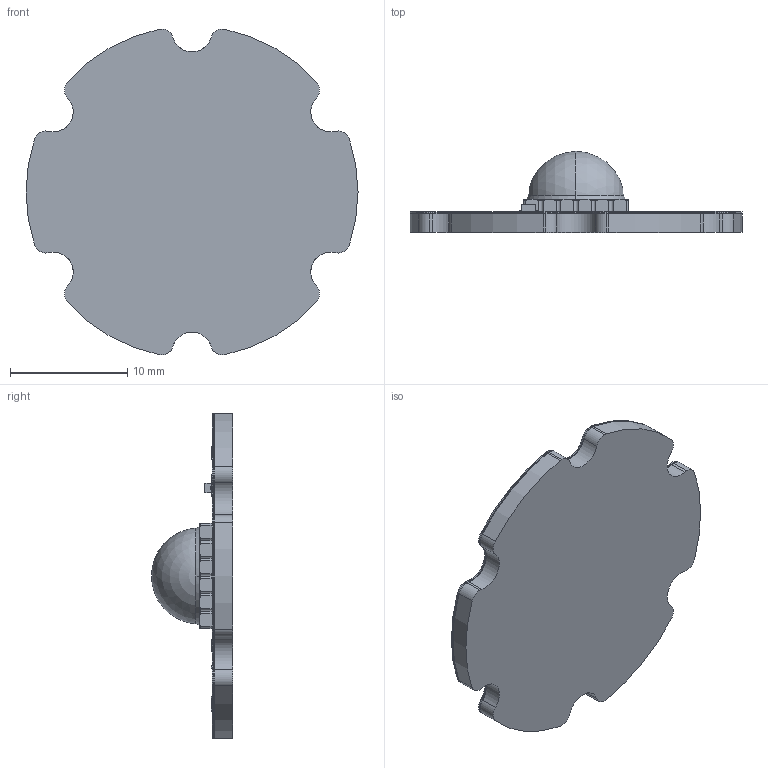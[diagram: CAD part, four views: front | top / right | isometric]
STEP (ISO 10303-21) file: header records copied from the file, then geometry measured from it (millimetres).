
FILE_DESCRIPTION (( 'STEP AP214' ), '1' );
FILE_NAME ('LZC-70WHXX-P3_RevA.STEP', '2012-09-19T18:29:07', ( '' ), ( '' ), 'SwSTEP 2.0', 'SolidWorks 2011', '' );
FILE_SCHEMA (( 'AUTOMOTIVE_DESIGN' ));
Length unit declared in the file: millimetre
Products named in the file (1): LZC-70WHXX-P3_RevA
Bounding box: 28.28 x 6.91 x 27.77 mm (x, y, z)
Volume: 1230.3 mm3; surface area: 1846.9 mm2
Topology: 30 solids, 30 shells, 1506 faces, 4113 edges, 2741 vertices
Faces by surface type: plane 943, cylinder 337, bspline 218, sphere 4, cone 4
Entity records: 74422 total; most frequent: CARTESIAN_POINT 20175, ORIENTED_EDGE 8210, DIRECTION 6951, EDGE_CURVE 4105, LINE 2965, VECTOR 2965, VERTEX_POINT 2737, AXIS2_PLACEMENT_3D 1993
